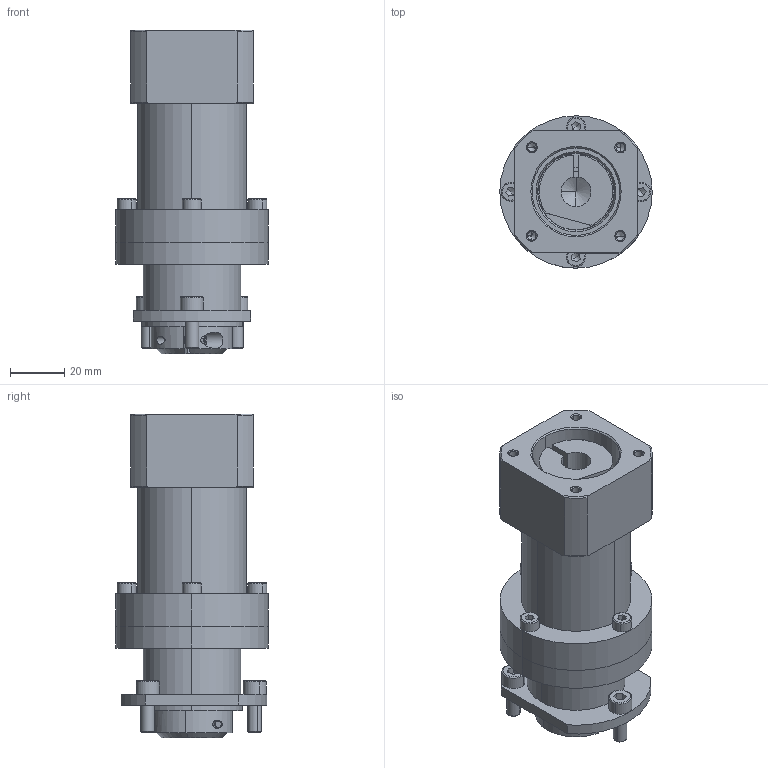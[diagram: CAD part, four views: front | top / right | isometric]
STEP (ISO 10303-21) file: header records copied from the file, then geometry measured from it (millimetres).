
FILE_DESCRIPTION (( 'STEP AP203' ), '1' );
FILE_NAME ('MAF040_MKU040_MPD040.STEP', '2013-09-30T13:36:35', ( 'Install' ), ( '' ), 'SwSTEP 2.0', 'SolidWorks 2013', '' );
FILE_SCHEMA (( 'CONFIG_CONTROL_DESIGN' ));
Length unit declared in the file: millimetre
Products named in the file (1): MAF040_MKU040_MPD040
Bounding box: 56 x 56 x 119 mm (x, y, z)
Volume: 152847.8 mm3; surface area: 59956.4 mm2
Topology: 19 solids, 25 shells, 702 faces, 1646 edges, 996 vertices
Faces by surface type: cylinder 277, plane 199, cone 174, torus 52
Entity records: 20656 total; most frequent: CARTESIAN_POINT 4387, DIRECTION 3615, ORIENTED_EDGE 3172, EDGE_CURVE 1586, AXIS2_PLACEMENT_3D 1466, VERTEX_POINT 996, EDGE_LOOP 816, CIRCLE 763
